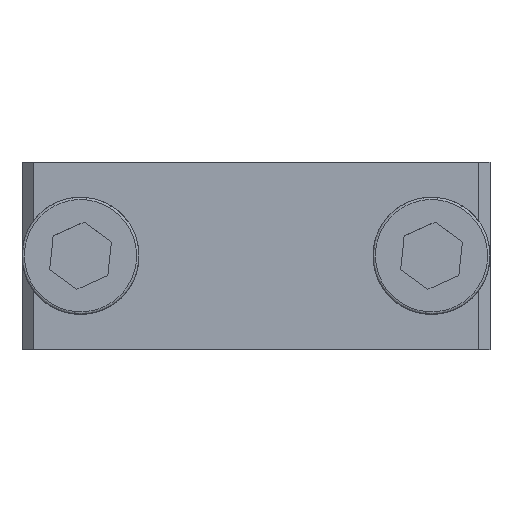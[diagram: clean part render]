
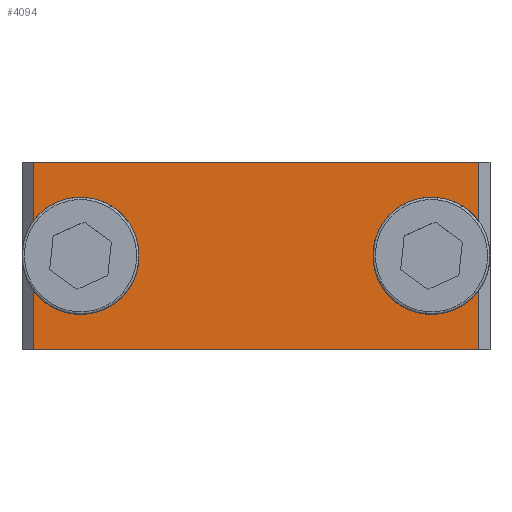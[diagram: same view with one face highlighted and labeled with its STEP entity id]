
A CAD part, top view. The second image highlights one B-rep face of the part: STEP entity #4094.
In plain terms, the highlighted planar face has unit normal (0, 0, 1).
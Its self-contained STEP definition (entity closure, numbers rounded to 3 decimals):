
#42 = ORIENTED_EDGE ( 'NONE', *, *, #6973, .F. ) ;
#130 = VECTOR ( 'NONE', #15345, 1000. ) ;
#590 = CARTESIAN_POINT ( 'NONE',  ( -48.556, 8.574, 10.01 ) ) ;
#626 = EDGE_CURVE ( 'NONE', #3601, #14688, #16724, .T. ) ;
#684 = DIRECTION ( 'NONE',  ( 0., 0., 1. ) ) ;
#1141 = AXIS2_PLACEMENT_3D ( 'NONE', #10253, #2015, #11611 ) ;
#1455 = VERTEX_POINT ( 'NONE', #7298 ) ;
#1592 = LINE ( 'NONE', #3149, #4862 ) ;
#1723 = CARTESIAN_POINT ( 'NONE',  ( -75.306, 8.574, 10.01 ) ) ;
#2015 = DIRECTION ( 'NONE',  ( 0., 0., -1. ) ) ;
#2059 = LINE ( 'NONE', #12648, #12108 ) ;
#2227 = EDGE_LOOP ( 'NONE', ( #5361, #6424 ) ) ;
#2264 = EDGE_LOOP ( 'NONE', ( #42, #11721 ) ) ;
#2642 = DIRECTION ( 'NONE',  ( 0., 0., 1. ) ) ;
#3120 = DIRECTION ( 'NONE',  ( -1., 0., 0. ) ) ;
#3149 = CARTESIAN_POINT ( 'NONE',  ( -41.306, 8.574, 10.01 ) ) ;
#3555 = ORIENTED_EDGE ( 'NONE', *, *, #626, .F. ) ;
#3601 = VERTEX_POINT ( 'NONE', #12935 ) ;
#4094 = ADVANCED_FACE ( 'NONE', ( #5256, #8877, #12428 ), #10201, .F. ) ;
#4288 = VERTEX_POINT ( 'NONE', #12112 ) ;
#4356 = EDGE_CURVE ( 'NONE', #1455, #14147, #10543, .T. ) ;
#4862 = VECTOR ( 'NONE', #11361, 1000. ) ;
#5256 = FACE_BOUND ( 'NONE', #2264, .T. ) ;
#5361 = ORIENTED_EDGE ( 'NONE', *, *, #4356, .F. ) ;
#5456 = ORIENTED_EDGE ( 'NONE', *, *, #17380, .F. ) ;
#5955 = CARTESIAN_POINT ( 'NONE',  ( -60.306, 16.574, 10.01 ) ) ;
#5958 = VERTEX_POINT ( 'NONE', #590 ) ;
#6074 = CIRCLE ( 'NONE', #16615, 3.25 ) ;
#6424 = ORIENTED_EDGE ( 'NONE', *, *, #16230, .F. ) ;
#6922 = CIRCLE ( 'NONE', #15559, 3.25 ) ;
#6946 = DIRECTION ( 'NONE',  ( 0., 0., 1. ) ) ;
#6973 = EDGE_CURVE ( 'NONE', #5958, #4288, #6074, .T. ) ;
#7095 = ORIENTED_EDGE ( 'NONE', *, *, #17163, .F. ) ;
#7298 = CARTESIAN_POINT ( 'NONE',  ( -78.556, 8.574, 10.01 ) ) ;
#7333 = EDGE_CURVE ( 'NONE', #4288, #5958, #6922, .T. ) ;
#7860 = AXIS2_PLACEMENT_3D ( 'NONE', #15009, #6946, #16394 ) ;
#8877 = FACE_BOUND ( 'NONE', #2227, .T. ) ;
#8911 = CARTESIAN_POINT ( 'NONE',  ( -45.306, 8.574, 10.01 ) ) ;
#9032 = CARTESIAN_POINT ( 'NONE',  ( -79.306, 8.574, 10.01 ) ) ;
#9325 = CARTESIAN_POINT ( 'NONE',  ( -79.306, 16.574, 10.01 ) ) ;
#9733 = DIRECTION ( 'NONE',  ( 0., 1., 0. ) ) ;
#10201 = PLANE ( 'NONE',  #1141 ) ;
#10253 = CARTESIAN_POINT ( 'NONE',  ( -41.306, 0.574, 10.01 ) ) ;
#10262 = DIRECTION ( 'NONE',  ( -1., 0., 0. ) ) ;
#10543 = CIRCLE ( 'NONE', #7860, 3.25 ) ;
#10605 = VERTEX_POINT ( 'NONE', #14353 ) ;
#10848 = CARTESIAN_POINT ( 'NONE',  ( -45.306, 8.574, 10.01 ) ) ;
#10849 = CARTESIAN_POINT ( 'NONE',  ( -41.306, 16.574, 10.01 ) ) ;
#11076 = LINE ( 'NONE', #5955, #130 ) ;
#11333 = DIRECTION ( 'NONE',  ( 0., 0., 1. ) ) ;
#11361 = DIRECTION ( 'NONE',  ( 0., -1., 0. ) ) ;
#11407 = VERTEX_POINT ( 'NONE', #10849 ) ;
#11510 = AXIS2_PLACEMENT_3D ( 'NONE', #1723, #11333, #3120 ) ;
#11611 = DIRECTION ( 'NONE',  ( -1., 0., 0. ) ) ;
#11721 = ORIENTED_EDGE ( 'NONE', *, *, #7333, .F. ) ;
#12108 = VECTOR ( 'NONE', #14006, 1000. ) ;
#12112 = CARTESIAN_POINT ( 'NONE',  ( -42.056, 8.574, 10.01 ) ) ;
#12171 = DIRECTION ( 'NONE',  ( -1., 0., 0. ) ) ;
#12297 = ORIENTED_EDGE ( 'NONE', *, *, #13656, .F. ) ;
#12428 = FACE_OUTER_BOUND ( 'NONE', #14834, .T. ) ;
#12648 = CARTESIAN_POINT ( 'NONE',  ( -60.306, 0.574, 10.01 ) ) ;
#12935 = CARTESIAN_POINT ( 'NONE',  ( -79.306, 0.574, 10.01 ) ) ;
#13061 = VECTOR ( 'NONE', #9733, 1000. ) ;
#13656 = EDGE_CURVE ( 'NONE', #10605, #3601, #2059, .T. ) ;
#14006 = DIRECTION ( 'NONE',  ( -1., 0., 0. ) ) ;
#14147 = VERTEX_POINT ( 'NONE', #14561 ) ;
#14353 = CARTESIAN_POINT ( 'NONE',  ( -41.306, 0.574, 10.01 ) ) ;
#14561 = CARTESIAN_POINT ( 'NONE',  ( -72.056, 8.574, 10.01 ) ) ;
#14688 = VERTEX_POINT ( 'NONE', #9325 ) ;
#14834 = EDGE_LOOP ( 'NONE', ( #3555, #12297, #5456, #7095 ) ) ;
#15009 = CARTESIAN_POINT ( 'NONE',  ( -75.306, 8.574, 10.01 ) ) ;
#15345 = DIRECTION ( 'NONE',  ( 1., 0., 0. ) ) ;
#15406 = CIRCLE ( 'NONE', #11510, 3.25 ) ;
#15559 = AXIS2_PLACEMENT_3D ( 'NONE', #10848, #2642, #12171 ) ;
#16230 = EDGE_CURVE ( 'NONE', #14147, #1455, #15406, .T. ) ;
#16394 = DIRECTION ( 'NONE',  ( -1., 0., 0. ) ) ;
#16615 = AXIS2_PLACEMENT_3D ( 'NONE', #8911, #684, #10262 ) ;
#16724 = LINE ( 'NONE', #9032, #13061 ) ;
#17163 = EDGE_CURVE ( 'NONE', #14688, #11407, #11076, .T. ) ;
#17380 = EDGE_CURVE ( 'NONE', #11407, #10605, #1592, .T. ) ;
